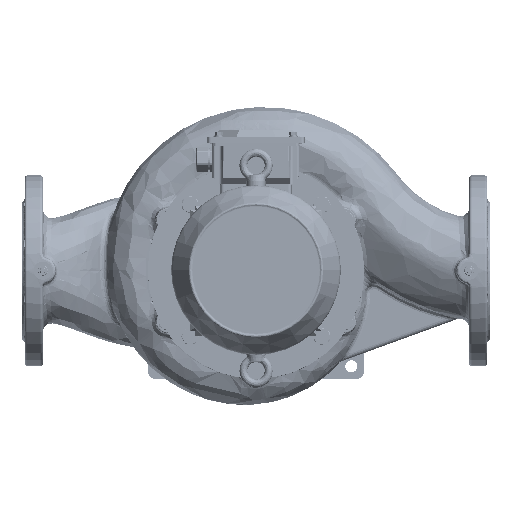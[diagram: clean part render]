
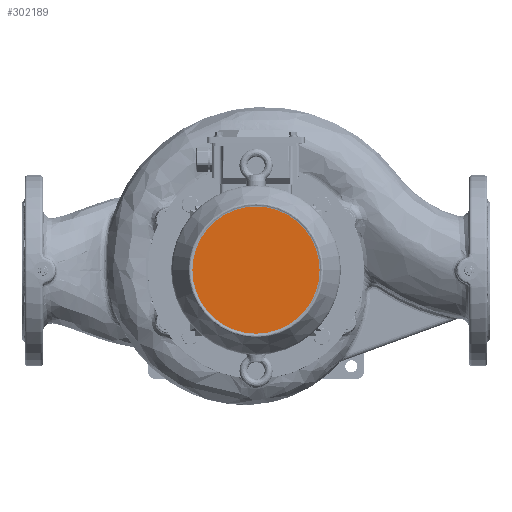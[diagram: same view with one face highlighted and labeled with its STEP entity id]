
A CAD part, top view. The second image highlights one B-rep face of the part: STEP entity #302189.
In plain terms, the highlighted planar face has unit normal (0, 0, 1) as drawn and (0, 1, 0) by its records, which use the part's own axes.
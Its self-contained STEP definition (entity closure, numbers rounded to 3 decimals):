
#273139=CARTESIAN_POINT('',(0.,62.61,
0.));
#273140=DIRECTION('',(0.,-1.,0.));
#273141=DIRECTION('',(0.,0.,1.));
#273142=AXIS2_PLACEMENT_3D('',#273139,#273140,#273141);
#273144=CARTESIAN_POINT('',(0.,62.61,
0.));
#273145=DIRECTION('',(0.,-1.,0.));
#273146=DIRECTION('',(0.,0.,-1.));
#273147=AXIS2_PLACEMENT_3D('',#273144,#273145,#273146);
#277590=CARTESIAN_POINT('',(0.,62.61,
-73.366));
#277591=VERTEX_POINT('',#277590);
#277592=CARTESIAN_POINT('',(0.,62.61,
73.366));
#277593=VERTEX_POINT('',#277592);
#302180=CARTESIAN_POINT('',(0.,62.61,
0.));
#302181=DIRECTION('',(0.,1.,0.));
#302182=DIRECTION('',(0.,0.,-1.));
#302183=AXIS2_PLACEMENT_3D('',#302180,#302181,#302182);
#302184=PLANE('',#302183);
#302185=ORIENTED_EDGE('',*,*,#302173,.T.);
#302186=ORIENTED_EDGE('',*,*,#302159,.T.);
#302187=EDGE_LOOP('',(#302185,#302186));
#302188=FACE_OUTER_BOUND('',#302187,.F.);
#302189=ADVANCED_FACE('',(#302188),#302184,.T.);
#273143=CIRCLE('',#273142,73.366);
#273148=CIRCLE('',#273147,73.366);
#302159=EDGE_CURVE('',#277591,#277593,#273148,.T.);
#302173=EDGE_CURVE('',#277593,#277591,#273143,.T.);
